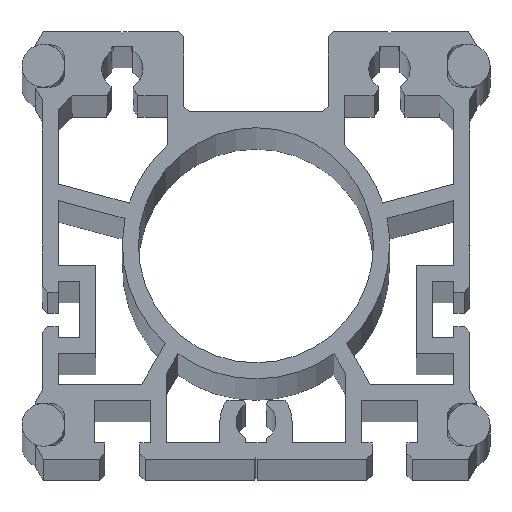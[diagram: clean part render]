
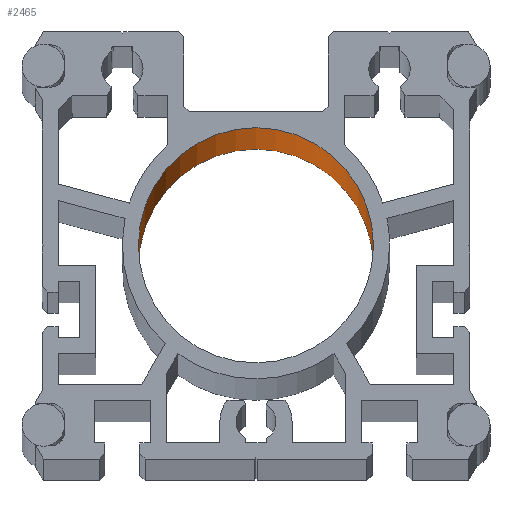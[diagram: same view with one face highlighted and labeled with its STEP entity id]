
A CAD part, top view. The second image highlights one B-rep face of the part: STEP entity #2465.
In plain terms, the highlighted cylindrical face has radius 22 mm (diameter 44 mm), a partial arc.
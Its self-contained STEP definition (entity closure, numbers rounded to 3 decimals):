
#223 = VERTEX_POINT ( 'NONE', #3528 ) ;
#355 = VERTEX_POINT ( 'NONE', #3771 ) ;
#356 = VERTEX_POINT ( 'NONE', #3770 ) ;
#371 = EDGE_CURVE ( 'NONE', #356, #223, #3829, .T. ) ;
#391 = EDGE_CURVE ( 'NONE', #355, #392, #3950, .T. ) ;
#392 = VERTEX_POINT ( 'NONE', #3946 ) ;
#1642 = EDGE_CURVE ( 'NONE', #356, #355, #5913, .T. ) ;
#2433 = ORIENTED_EDGE ( 'NONE', *, *, #2463, .T. ) ;
#2463 = EDGE_CURVE ( 'NONE', #223, #392, #7268, .T. ) ;
#2465 = ADVANCED_FACE ( 'NONE', ( #7263 ), #7261, .F. ) ;
#2466 = EDGE_LOOP ( 'NONE', ( #2553, #2554, #2555, #2433 ) ) ;
#2553 = ORIENTED_EDGE ( 'NONE', *, *, #391, .F. ) ;
#2554 = ORIENTED_EDGE ( 'NONE', *, *, #1642, .F. ) ;
#2555 = ORIENTED_EDGE ( 'NONE', *, *, #371, .T. ) ;
#3528 = CARTESIAN_POINT ( 'NONE',  ( 22., 40., 1149. ) ) ;
#3770 = CARTESIAN_POINT ( 'NONE',  ( 22., 40., -1149. ) ) ;
#3771 = CARTESIAN_POINT ( 'NONE',  ( -22., 40., -1149. ) ) ;
#3826 = DIRECTION ( 'NONE',  ( 0., 0., 1. ) ) ;
#3827 = VECTOR ( 'NONE', #3826, 1000. ) ;
#3828 = CARTESIAN_POINT ( 'NONE',  ( 22., 40., -1149. ) ) ;
#3829 = LINE ( 'NONE', #3828, #3827 ) ;
#3946 = CARTESIAN_POINT ( 'NONE',  ( -22., 40., 1149. ) ) ;
#3947 = DIRECTION ( 'NONE',  ( 0., 0., 1. ) ) ;
#3948 = VECTOR ( 'NONE', #3947, 1000. ) ;
#3949 = CARTESIAN_POINT ( 'NONE',  ( -22., 40., -1149. ) ) ;
#3950 = LINE ( 'NONE', #3949, #3948 ) ;
#5806 = DIRECTION ( 'NONE',  ( 1., 0., 0. ) ) ;
#5807 = DIRECTION ( 'NONE',  ( 0., 0., 1. ) ) ;
#5808 = CARTESIAN_POINT ( 'NONE',  ( 0., 40., -1149. ) ) ;
#5809 = AXIS2_PLACEMENT_3D ( 'NONE', #5808, #5807, #5806 ) ;
#5913 = CIRCLE ( 'NONE', #5809, 22. ) ;
#7092 = DIRECTION ( 'NONE',  ( 1., 0., 0. ) ) ;
#7093 = DIRECTION ( 'NONE',  ( 0., 0., 1. ) ) ;
#7094 = CARTESIAN_POINT ( 'NONE',  ( 0., 40., -1149. ) ) ;
#7261 = CYLINDRICAL_SURFACE ( 'NONE', #7262, 22. ) ;
#7262 = AXIS2_PLACEMENT_3D ( 'NONE', #7094, #7093, #7092 ) ;
#7263 = FACE_OUTER_BOUND ( 'NONE', #2466, .T. ) ;
#7264 = DIRECTION ( 'NONE',  ( 1., 0., 0. ) ) ;
#7265 = DIRECTION ( 'NONE',  ( 0., 0., 1. ) ) ;
#7266 = CARTESIAN_POINT ( 'NONE',  ( 0., 40., 1149. ) ) ;
#7267 = AXIS2_PLACEMENT_3D ( 'NONE', #7266, #7265, #7264 ) ;
#7268 = CIRCLE ( 'NONE', #7267, 22. ) ;
